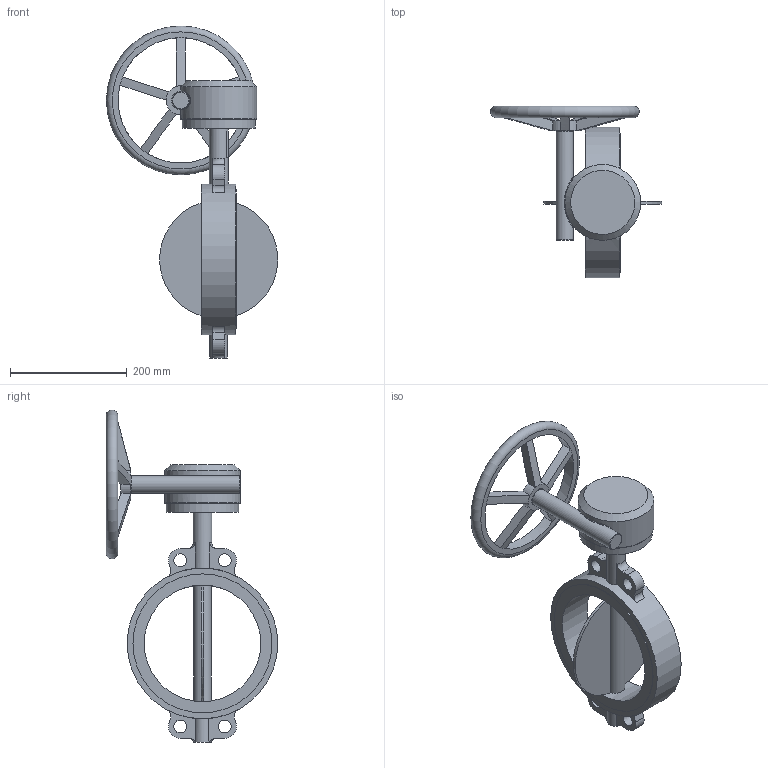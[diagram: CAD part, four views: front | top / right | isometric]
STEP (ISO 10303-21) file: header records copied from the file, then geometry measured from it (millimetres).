
FILE_DESCRIPTION(('STEP AP203'), '1');
FILE_NAME('青蜮铕 017W.Y_DN200_PN16_疱潴牝铕', '', ('UNSPECIFIED'), ('UNSPECIFIED'), 'ASCON STEP Converter 1.6', 'ASCON Math Kernel', '');
FILE_SCHEMA(('CONFIG_CONTROL_DESIGN'));
Length unit declared in the file: millimetre
Bounding box: 293.35 x 294.1 x 569 mm (x, y, z)
Volume: 3259768.7 mm3; surface area: 383443.9 mm2
Topology: 1 solids, 1 shells, 140 faces, 343 edges, 212 vertices
Faces by surface type: plane 64, cylinder 47, cone 19, torus 8, bspline 2
Full cylindrical faces by diameter (mm): 10.106 x4, 12 x4, 22 x4, 30 x1, 32 x1, 125 x1, 130 x1, 200 x1, 215 x1, 238.2 x2, 258.2 x1
Entity records: 7274 total; most frequent: CARTESIAN_POINT 2929, DIRECTION 680, ORIENTED_EDGE 606, EDGE_CURVE 303, AXIS2_PLACEMENT_3D 284, VERTEX_POINT 208, EDGE_LOOP 205, CIRCLE 145
